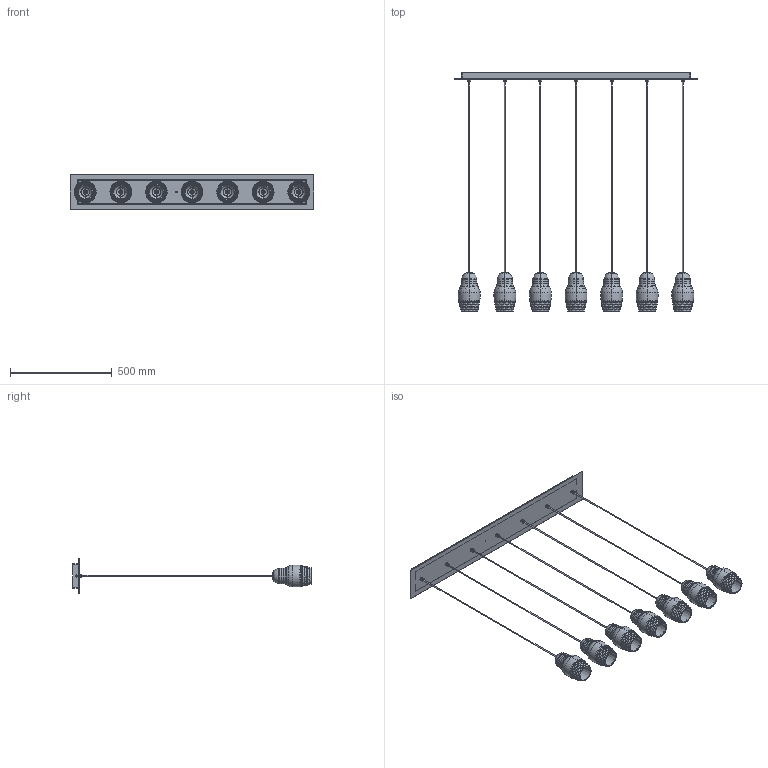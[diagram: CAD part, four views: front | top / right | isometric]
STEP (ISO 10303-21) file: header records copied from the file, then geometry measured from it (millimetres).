
FILE_DESCRIPTION (( 'STEP AP203' ), '1' );
FILE_NAME ('SPFEDORA07-PER 3D.STEP', '2024-05-29T15:09:51', ( '' ), ( '' ), 'SwSTEP 2.0', 'SolidWorks 2024', '' );
FILE_SCHEMA (( 'CONFIG_CONTROL_DESIGN' ));
Length unit declared in the file: millimetre
Products named in the file (11): FEDORA-SP1-1-5-01; FEDORA-SP1-1-5-1; FEDORA-SP1-1; FEDORA-SP-WIRE-CE-3.5M_默认; FEDORA-SP7-1-02_Default<按加工>; SPFEDORA07-PER 3D; FEDORA-SP7-1; FEDORA-SP1-1-5; FEDORA-SP7-1-01; FEDORA-SP12-4-05; FEDORA-SP1-1-5-1-01
Assembly tree (28 placements, depth 4):
  SPFEDORA07-PER 3D
    FEDORA-SP7-1
      FEDORA-SP7-1-01
      FEDORA-SP7-1-02_Default<按加工>
      FEDORA-SP12-4-05  x7
    FEDORA-SP1-1  x7
      FEDORA-SP-WIRE-CE-3.5M_默认
    FEDORA-SP1-1-5  x7
      FEDORA-SP1-1-5-1
        FEDORA-SP1-1-5-1-01
      FEDORA-SP1-1-5-01
Bounding box: 1200 x 1174.03 x 170 mm (x, y, z)
Volume: 2295237.3 mm3; surface area: 1865739.3 mm2
Topology: 31 solids, 31 shells, 2555 faces, 6323 edges, 3844 vertices
Faces by surface type: bspline 1407, torus 707, cylinder 197, plane 132, cone 112
Entity records: 31202 total; most frequent: CARTESIAN_POINT 19604, ORIENTED_EDGE 2290, DIRECTION 1736, EDGE_CURVE 1145, VERTEX_POINT 700, AXIS2_PLACEMENT_3D 688, EDGE_LOOP 505, ADVANCED_FACE 461
